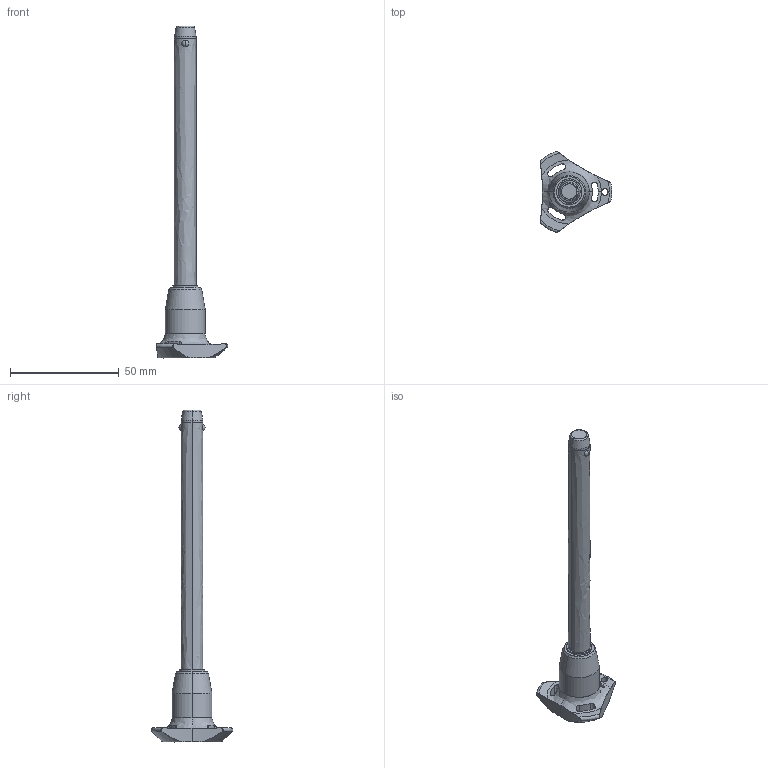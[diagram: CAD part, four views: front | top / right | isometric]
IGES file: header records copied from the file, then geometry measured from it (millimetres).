
Start section: SolidWorks IGES file using analytic representation for surfaces
Global section: file name: C:\Users\ianosborn\Desktop\33060_v2\33060.BK_v2_20240910_IGES\33060.W0857.igs; native system: SolidWorks 2019; preprocessor: SolidWorks 2019; author: IanOsborn; date: 240910.201356; units: millimetre
Bounding box: 33 x 37.51 x 152.9 mm (x, y, z)
Surface area: 7549.2 mm2 (no closed solid volume)
Topology: 0 solids, 0 shells, 68 faces, 1351 edges, 1344 vertices
Faces by surface type: revolution 52, bspline 16
